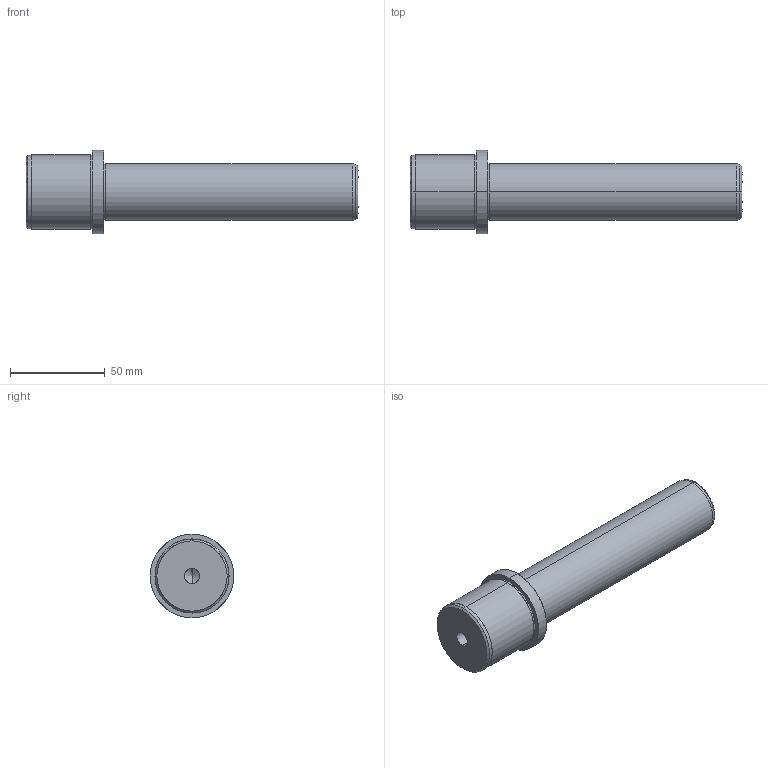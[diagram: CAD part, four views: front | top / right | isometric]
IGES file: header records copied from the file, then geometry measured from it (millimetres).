
Start section: SolidWorks IGES file using analytic representation for surfaces
Global section: file name: C:\Documents and Settings\kalite-mail\Desktop\IGS\D05\D05 - 30x140x35.IGS; native system: SolidWorks 2008; preprocessor: SolidWorks 2008; author: kalite-mail; date: 080617.110021; units: millimetre
Bounding box: 175 x 44 x 44 mm (x, y, z)
Surface area: 20977.5 mm2 (no closed solid volume)
Topology: 0 solids, 0 shells, 29 faces, 856 edges, 854 vertices
Faces by surface type: revolution 20, bspline 9
